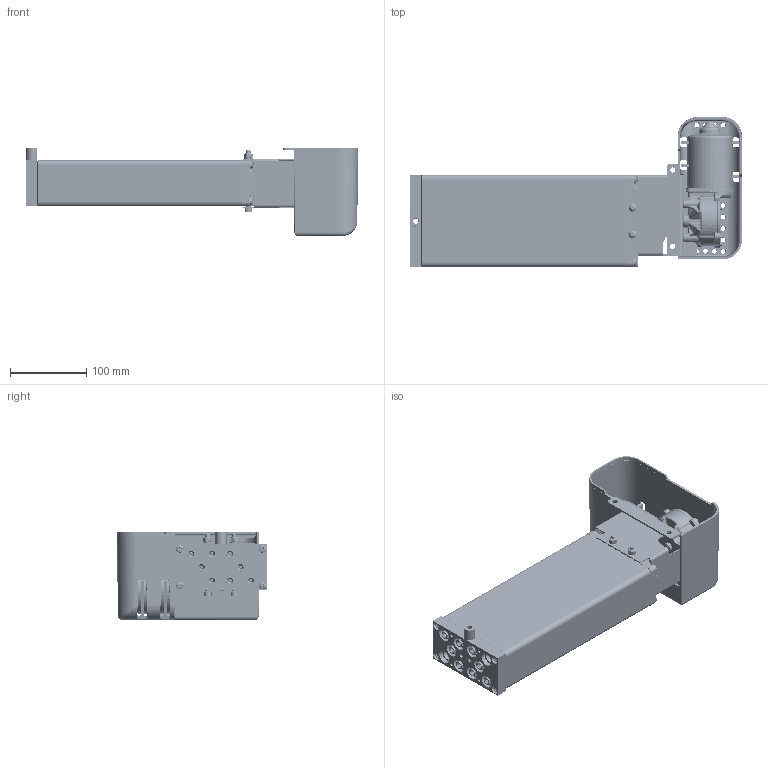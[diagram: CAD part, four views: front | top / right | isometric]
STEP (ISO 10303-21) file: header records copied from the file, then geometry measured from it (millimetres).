
FILE_DESCRIPTION(/* description */ ('Unknown'),/* implementation_level */ '2;1');
FILE_NAME(/* name */ '3X2.20201 Pumpe PB 8815 W mit Antrieb',/* time_stamp */ '2016-11-14T17:24:26+01:00',/* author */ ('Unknown'),/* organization */ ('Unknown'),/* preprocessor_version */ 'ST-DEVELOPER v16.7',/* originating_system */ 'DEX',/* authorisation */ $);
FILE_SCHEMA (('AUTOMOTIVE_DESIGN {1 0 10303 214 3 1 1}'));
Products named in the file (33): 102.00201; 115.10031; 125.00061; 115.00008; 142.00021; 125.00021; 142.00013; 125.00141; 115.00140; 126.00006; 122.00040; 119.00041; 126.00036; 127.00201; 127.00200; 127.00023; 124.00090; Getriebe; Ring; Schraube; Stator; Abdeckplatte; Antriebswelle; 128.00051; 123.00031; 142.00018; 142.00019; 142.00025; 142.00131; 123.00029; 142.00057; 142.00083; 142.00017
Assembly tree (55 placements, depth 3):
  102.00201
    115.10031  x8
      125.00061
      115.00008
      142.00021
      125.00021
    142.00013  x8
    125.00141
    115.00140
      126.00006
      122.00040
    119.00041
    126.00036
    127.00201
      127.00200
      127.00023
    124.00090
      Getriebe
      Ring
      Schraube
      Stator
      Abdeckplatte
      Antriebswelle
    128.00051
    123.00031
    142.00018  x2
    142.00019  x2
    142.00025  x2
    142.00131  x3
    123.00029
    142.00057
    142.00083  x4
    142.00017  x2
Bounding box: 434.45 x 196.04 x 115.45 mm (x, y, z)
Volume: 942333.1 mm3; surface area: 581777 mm2
Topology: 64 solids, 66 shells, 4424 faces, 11067 edges, 6784 vertices
Faces by surface type: plane 1395, cylinder 1190, bspline 1040, cone 495, torus 206, sphere 98
Full cylindrical faces by diameter (mm): 2.5 x4, 3.2 x4, 3.5 x8, 3.9 x5, 4.1 x8, 4.134 x4, 4.2 x10, 4.4 x5, 4.5 x1, 4.917 x4, 5 x12, 5.5 x5, 5.8 x4, 6 x8, 6.4 x2, 6.8 x6, 6.917 x16, 7 x1, 8 x18, 8.5 x10, 9 x2, 9.5 x1, 9.8 x8, 10 x10, 10.3 x1, 10.32 x1, 10.4 x1, 10.5 x4, 11 x5, 12.5 x8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
Entity records: 165496 total; most frequent: CARTESIAN_POINT 80689, ORIENTED_EDGE 16062, DIRECTION 12101, EDGE_CURVE 8031, VERTEX_POINT 5275, AXIS2_PLACEMENT_3D 4685, FACE_BOUND 4026, EDGE_LOOP 4021
